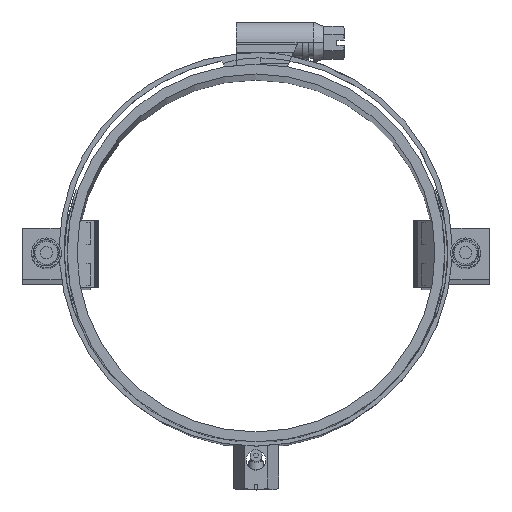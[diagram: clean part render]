
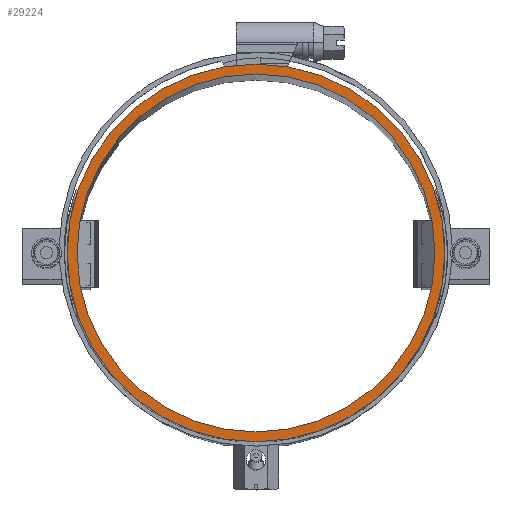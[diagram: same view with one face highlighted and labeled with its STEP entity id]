
A CAD part, top view. The second image highlights one B-rep face of the part: STEP entity #29224.
In plain terms, the highlighted planar face has unit normal (0, 0, 1).
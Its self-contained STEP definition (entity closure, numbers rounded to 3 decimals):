
#8516=PLANE('',#28623);
#8739=CIRCLE('',#28579,38.05);
#8761=CIRCLE('',#28607,36.05);
#9188=ORIENTED_EDGE('',*,*,#12329,.T.);
#9189=ORIENTED_EDGE('',*,*,#12388,.T.);
#11731=VERTEX_POINT('',#17481);
#11785=VERTEX_POINT('',#19582);
#12329=EDGE_CURVE('',#11731,#11731,#8739,.T.);
#12388=EDGE_CURVE('',#11785,#11785,#8761,.T.);
#13134=EDGE_LOOP('',(#9188));
#13135=EDGE_LOOP('',(#9189));
#13537=FACE_BOUND('',#13134,.T.);
#13538=FACE_BOUND('',#13135,.T.);
#14056=DIRECTION('',(0.,0.,1.));
#14057=DIRECTION('',(38.05,0.,0.));
#14130=DIRECTION('',(0.,0.,-1.));
#14131=DIRECTION('',(36.05,0.,0.));
#14175=DIRECTION('',(0.,0.,1.));
#14176=DIRECTION('',(0.,-1.,0.));
#17481=CARTESIAN_POINT('',(131.293,33.589,695.626));
#17482=CARTESIAN_POINT('',(93.243,33.589,695.626));
#19582=CARTESIAN_POINT('',(129.293,33.589,695.626));
#19583=CARTESIAN_POINT('',(93.243,33.589,695.626));
#20701=CARTESIAN_POINT('',(93.243,33.589,695.626));
#28579=AXIS2_PLACEMENT_3D('',#17482,#14056,#14057);
#28607=AXIS2_PLACEMENT_3D('',#19583,#14130,#14131);
#28623=AXIS2_PLACEMENT_3D('',#20701,#14175,#14176);
#29224=ADVANCED_FACE('',(#13537,#13538),#8516,.T.);
